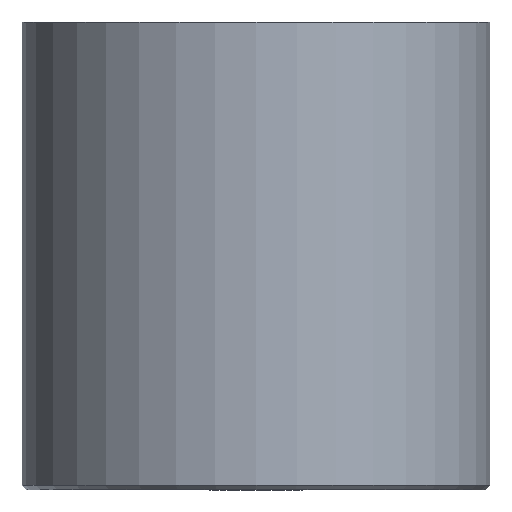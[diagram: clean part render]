
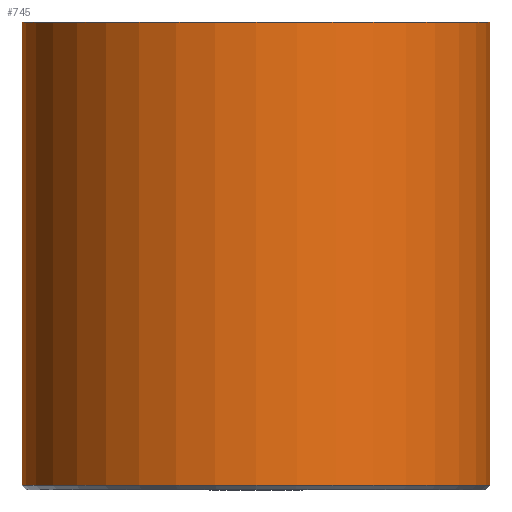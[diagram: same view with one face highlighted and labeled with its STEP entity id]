
A CAD part, front view. The second image highlights one B-rep face of the part: STEP entity #745.
In plain terms, the highlighted cylindrical face has radius 10 mm (diameter 20 mm), a partial arc.
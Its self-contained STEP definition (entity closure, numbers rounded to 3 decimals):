
#1 = DIRECTION ( 'NONE',  ( 0., 0., 1. ) ) ;
#38 = CARTESIAN_POINT ( 'NONE',  ( 0., 0., 1. ) ) ;
#66 = DIRECTION ( 'NONE',  ( 0., 0., 1. ) ) ;
#67 = CIRCLE ( 'NONE', #479, 10. ) ;
#114 = CARTESIAN_POINT ( 'NONE',  ( 10., 0., 1. ) ) ;
#115 = VECTOR ( 'NONE', #624, 1000. ) ;
#121 = VERTEX_POINT ( 'NONE', #428 ) ;
#123 = DIRECTION ( 'NONE',  ( 0., 0., 1. ) ) ;
#137 = DIRECTION ( 'NONE',  ( 1., 0., 0. ) ) ;
#170 = CARTESIAN_POINT ( 'NONE',  ( 10., 0., -19.8 ) ) ;
#219 = VECTOR ( 'NONE', #66, 1000. ) ;
#234 = ORIENTED_EDGE ( 'NONE', *, *, #381, .F. ) ;
#262 = CYLINDRICAL_SURFACE ( 'NONE', #306, 10. ) ;
#277 = CARTESIAN_POINT ( 'NONE',  ( 0., 0., 0. ) ) ;
#287 = LINE ( 'NONE', #114, #219 ) ;
#295 = ORIENTED_EDGE ( 'NONE', *, *, #326, .T. ) ;
#306 = AXIS2_PLACEMENT_3D ( 'NONE', #38, #1, #774 ) ;
#317 = VERTEX_POINT ( 'NONE', #170 ) ;
#326 = EDGE_CURVE ( 'NONE', #317, #335, #287, .T. ) ;
#327 = CIRCLE ( 'NONE', #490, 10. ) ;
#335 = VERTEX_POINT ( 'NONE', #474 ) ;
#381 = EDGE_CURVE ( 'NONE', #760, #335, #327, .T. ) ;
#390 = EDGE_CURVE ( 'NONE', #121, #317, #67, .T. ) ;
#428 = CARTESIAN_POINT ( 'NONE',  ( -10., 0., -19.8 ) ) ;
#448 = CARTESIAN_POINT ( 'NONE',  ( 0., 0., -19.8 ) ) ;
#469 = ORIENTED_EDGE ( 'NONE', *, *, #768, .F. ) ;
#474 = CARTESIAN_POINT ( 'NONE',  ( 10., 0., 0. ) ) ;
#479 = AXIS2_PLACEMENT_3D ( 'NONE', #448, #635, #552 ) ;
#490 = AXIS2_PLACEMENT_3D ( 'NONE', #277, #123, #137 ) ;
#507 = FACE_OUTER_BOUND ( 'NONE', #597, .T. ) ;
#552 = DIRECTION ( 'NONE',  ( 1., 0., 0. ) ) ;
#597 = EDGE_LOOP ( 'NONE', ( #469, #707, #295, #234 ) ) ;
#624 = DIRECTION ( 'NONE',  ( 0., 0., 1. ) ) ;
#628 = CARTESIAN_POINT ( 'NONE',  ( -10., 0., 1. ) ) ;
#635 = DIRECTION ( 'NONE',  ( 0., 0., 1. ) ) ;
#706 = CARTESIAN_POINT ( 'NONE',  ( -10., 0., 0. ) ) ;
#707 = ORIENTED_EDGE ( 'NONE', *, *, #390, .T. ) ;
#745 = ADVANCED_FACE ( 'NONE', ( #507 ), #262, .T. ) ;
#760 = VERTEX_POINT ( 'NONE', #706 ) ;
#768 = EDGE_CURVE ( 'NONE', #121, #760, #780, .T. ) ;
#774 = DIRECTION ( 'NONE',  ( 1., 0., 0. ) ) ;
#780 = LINE ( 'NONE', #628, #115 ) ;
